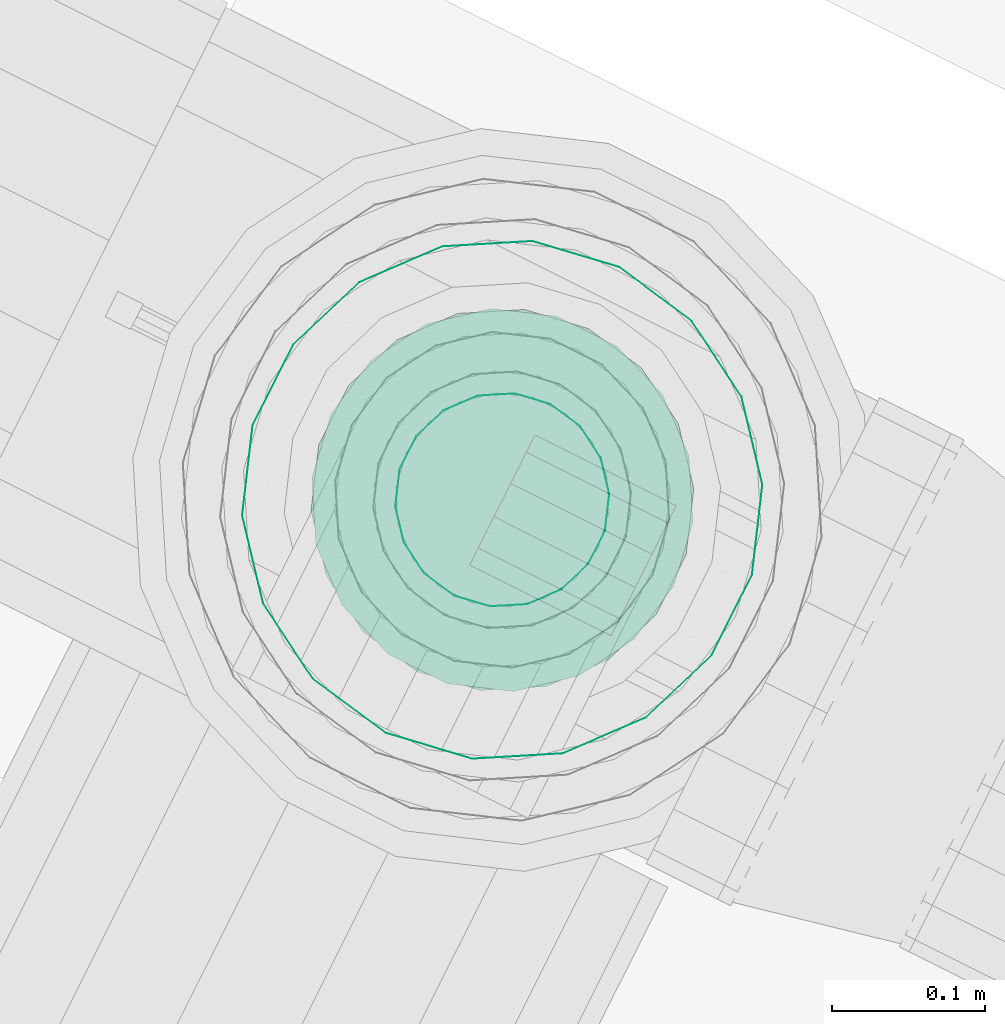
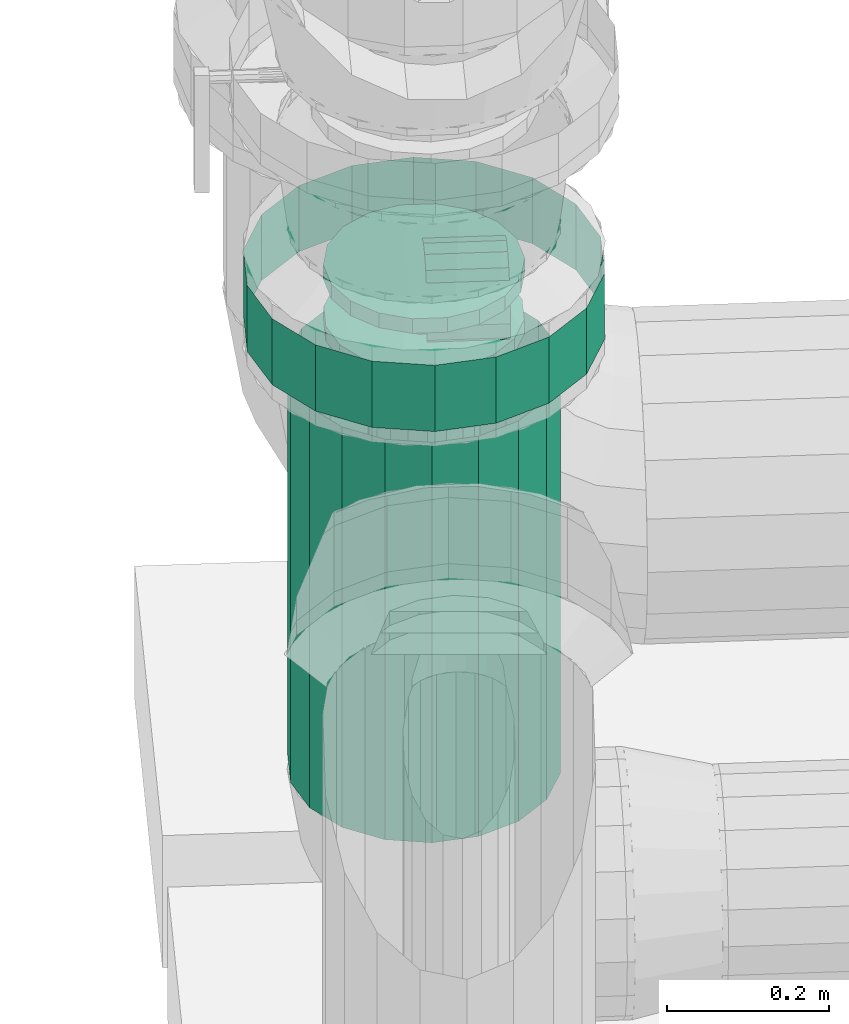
# One storey, part 116 of 152: 1 flow controller, 1 flow segment.
"""IFC2X3 building model written with IfcOpenShell, lengths in metres."""

from ifc_helpers import new_model, si_unit, derived_unit, direction, frame, origin, place, context, subcontext, project, spatial, face_set, surface_model, source, transform, mapped, material, type_object, type_shapes, element, save


model = new_model("IFC2X3")

# Units and contexts
model_context = context("Model", 3, precision=5.2338327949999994e-05, world=origin(), true_north=direction((0.0, 1.0)))
body_context = subcontext(model_context, "Body", "Model", "MODEL_VIEW")
ifc_project = project(units=[si_unit("LENGTHUNIT", "METRE"), si_unit("AREAUNIT", "SQUARE_METRE"), si_unit("VOLUMEUNIT", "CUBIC_METRE"), si_unit("MASSUNIT", "GRAM", prefix="KILO"), si_unit("PLANEANGLEUNIT", "RADIAN"), derived_unit("THERMALTRANSMITTANCEUNIT", [(si_unit("MASSUNIT", "GRAM", prefix="KILO"), 1), (si_unit("THERMODYNAMICTEMPERATUREUNIT", "KELVIN"), -1), (si_unit("TIMEUNIT", "SECOND"), -3)])], contexts=[model_context])

# Site, building, storey
site_placement = place(None, frame((0.0, 0.0, 0.0), z_axis=(0.0, 0.0, 1.0), x_axis=(0.8939966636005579, -0.4480736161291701, 0.0)))
site = spatial("IfcSite", under=ifc_project, at=site_placement, Name="Default", CompositionType="ELEMENT")
building_placement = place(site_placement, origin())
building = spatial("IfcBuilding", under=site, at=building_placement, CompositionType="ELEMENT")
storey_placement = place(building_placement, frame((0.0, 0.0, 2.7499999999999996)))
storey = spatial("IfcBuildingStorey", under=building, at=storey_placement, Name="1. Obergeschoss", CompositionType="ELEMENT", Elevation=2.7499999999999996)

# Flow controller
ifc_material = material(Name="IfcSurfaceStyle #9317")
distribution_element_type_1 = type_object("IfcDistributionElementType", Name="Rückschlagklappe:Rückschlagklappe", material=ifc_material)
shared_shape_1 = source(origin(), body_context, "Body", "SurfaceModel", [
    surface_model("IfcFaceBasedSurfaceModel", [(9.625770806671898, 7.4522083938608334, 4.175071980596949), (9.583018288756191, 7.444669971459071, 4.175071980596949), (9.583018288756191, 7.444669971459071, 4.1970719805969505), (9.625770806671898, 7.4522083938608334, 4.1970719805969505), (9.545422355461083, 7.422963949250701, 4.175071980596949), (9.545422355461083, 7.422963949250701, 4.1970719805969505), (9.517517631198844, 7.389708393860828, 4.175071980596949), (9.517517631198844, 7.389708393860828, 4.1970719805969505), (9.502669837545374, 7.348914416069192, 4.175071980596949), (9.502669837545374, 7.348914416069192, 4.1970719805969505), (9.502669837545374, 7.30550237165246, 4.175071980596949), (9.502669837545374, 7.30550237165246, 4.1970719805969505), (9.517517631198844, 7.264708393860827, 4.175071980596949), (9.517517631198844, 7.264708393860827, 4.1970719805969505), (9.545422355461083, 7.231452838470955, 4.175071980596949), (9.545422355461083, 7.231452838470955, 4.1970719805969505), (9.583018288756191, 7.209746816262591, 4.175071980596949), (9.583018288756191, 7.209746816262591, 4.1970719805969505), (9.6257708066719, 7.202208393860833, 4.175071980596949), (9.6257708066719, 7.202208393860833, 4.1970719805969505), (9.668523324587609, 7.209746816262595, 4.175071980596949), (9.668523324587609, 7.209746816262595, 4.1970719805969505), (9.706119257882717, 7.231452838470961, 4.175071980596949), (9.706119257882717, 7.231452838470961, 4.1970719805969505), (9.734023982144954, 7.264708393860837, 4.175071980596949), (9.734023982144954, 7.264708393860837, 4.1970719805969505), (9.748871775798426, 7.30550237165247, 4.175071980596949), (9.748871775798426, 7.30550237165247, 4.1970719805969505), (9.748871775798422, 7.348914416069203, 4.175071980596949), (9.748871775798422, 7.348914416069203, 4.1970719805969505), (9.734023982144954, 7.389708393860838, 4.175071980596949), (9.734023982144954, 7.389708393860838, 4.1970719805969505), (9.706119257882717, 7.422963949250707, 4.175071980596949), (9.706119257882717, 7.422963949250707, 4.1970719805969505), (9.66852332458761, 7.444669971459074, 4.175071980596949), (9.66852332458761, 7.444669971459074, 4.1970719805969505), (9.625770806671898, 7.327208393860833, 4.175071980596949), (9.625770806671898, 7.327208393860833, 4.19707198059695), (9.579204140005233, 7.32720839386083, 4.197071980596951), (9.582012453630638, 7.311281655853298, 4.197071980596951), (9.560133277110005, 7.303318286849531, 4.215738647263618), (9.5559208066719, 7.327208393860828, 4.215738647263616), (9.590098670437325, 7.297275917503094, 4.19707198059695), (9.572262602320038, 7.282309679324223, 4.215738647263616), (9.602487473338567, 7.2868804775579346, 4.1970719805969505), (9.5908458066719, 7.2667165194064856, 4.215738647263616), (9.61768458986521, 7.281349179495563, 4.1970719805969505), (9.613641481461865, 7.258419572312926, 4.215738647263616), (9.633857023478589, 7.281349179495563, 4.1970719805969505), (9.637900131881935, 7.258419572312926, 4.215738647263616), (9.649054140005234, 7.286880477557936, 4.19707198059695), (9.6606958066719, 7.266716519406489, 4.215738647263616), (9.661442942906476, 7.297275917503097, 4.19707198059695), (9.67927901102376, 7.282309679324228, 4.215738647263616), (9.669529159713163, 7.311281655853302, 4.1970719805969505), (9.691408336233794, 7.303318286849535, 4.215738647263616), (9.672337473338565, 7.3272083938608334, 4.1970719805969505), (9.6956208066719, 7.3272083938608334, 4.215738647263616), (9.669529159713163, 7.3431351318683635, 4.1970719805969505), (9.691408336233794, 7.351098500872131, 4.215738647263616), (9.661442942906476, 7.35714087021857, 4.19707198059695), (9.67927901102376, 7.372107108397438, 4.215738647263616), (9.649054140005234, 7.367536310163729, 4.19707198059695), (9.660695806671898, 7.387700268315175, 4.215738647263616), (9.633857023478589, 7.3730676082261, 4.1970719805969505), (9.637900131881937, 7.395997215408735, 4.215738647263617), (9.617684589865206, 7.3730676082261, 4.19707198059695), (9.613641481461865, 7.395997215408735, 4.215738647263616), (9.602487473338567, 7.367536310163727, 4.19707198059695), (9.590845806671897, 7.387700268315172, 4.215738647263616), (9.590098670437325, 7.357140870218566, 4.1970719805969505), (9.572262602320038, 7.372107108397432, 4.215738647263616), (9.582012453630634, 7.34313513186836, 4.19707198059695), (9.560133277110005, 7.351098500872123, 4.215738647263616), (9.6257708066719, 7.397058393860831, 4.215738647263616), (9.601880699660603, 7.392845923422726, 4.215738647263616), (9.601880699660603, 7.392845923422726, 4.234405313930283), (9.6257708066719, 7.397058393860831, 4.234405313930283), (9.580872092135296, 7.380716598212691, 4.215738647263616), (9.580872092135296, 7.380716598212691, 4.234405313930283), (9.565278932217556, 7.362133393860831, 4.215738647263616), (9.565278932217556, 7.362133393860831, 4.234405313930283), (9.556981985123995, 7.339337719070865, 4.215738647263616), (9.556981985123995, 7.339337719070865, 4.234405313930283), (9.556981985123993, 7.3150790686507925, 4.215738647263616), (9.556981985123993, 7.3150790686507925, 4.234405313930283), (9.565278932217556, 7.29228339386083, 4.215738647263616), (9.565278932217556, 7.29228339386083, 4.234405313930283), (9.580872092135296, 7.273700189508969, 4.215738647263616), (9.580872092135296, 7.273700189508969, 4.234405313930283), (9.601880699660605, 7.261570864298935, 4.215738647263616), (9.601880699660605, 7.261570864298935, 4.234405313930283), (9.6257708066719, 7.257358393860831, 4.215738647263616), (9.6257708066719, 7.257358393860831, 4.234405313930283), (9.6496609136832, 7.261570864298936, 4.215738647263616), (9.6496609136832, 7.261570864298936, 4.234405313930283), (9.670669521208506, 7.273700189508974, 4.215738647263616), (9.670669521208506, 7.273700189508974, 4.234405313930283), (9.68626268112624, 7.292283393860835, 4.215738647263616), (9.68626268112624, 7.292283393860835, 4.234405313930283), (9.694559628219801, 7.3150790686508, 4.215738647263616), (9.694559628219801, 7.3150790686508, 4.234405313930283), (9.694559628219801, 7.33933771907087, 4.215738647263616), (9.694559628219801, 7.33933771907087, 4.234405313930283), (9.686262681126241, 7.3621333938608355, 4.215738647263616), (9.686262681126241, 7.3621333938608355, 4.234405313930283), (9.670669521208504, 7.380716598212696, 4.215738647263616), (9.670669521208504, 7.380716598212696, 4.234405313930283), (9.6496609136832, 7.39284592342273, 4.215738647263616), (9.6496609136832, 7.39284592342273, 4.234405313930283), (9.555920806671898, 7.327208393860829, 4.234405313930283), (9.560133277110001, 7.303318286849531, 4.234405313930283), (9.582012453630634, 7.311281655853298, 4.253071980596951), (9.579204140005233, 7.32720839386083, 4.253071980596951), (9.572262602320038, 7.282309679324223, 4.234405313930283), (9.590098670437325, 7.297275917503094, 4.253071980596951), (9.5908458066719, 7.266716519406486, 4.234405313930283), (9.602487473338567, 7.2868804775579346, 4.253071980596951), (9.613641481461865, 7.2584195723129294, 4.234405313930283), (9.61768458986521, 7.281349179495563, 4.2530719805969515), (9.637900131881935, 7.2584195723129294, 4.234405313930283), (9.633857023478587, 7.281349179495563, 4.2530719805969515), (9.6606958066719, 7.26671651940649, 4.234405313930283), (9.649054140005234, 7.286880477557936, 4.253071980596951), (9.67927901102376, 7.282309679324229, 4.234405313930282), (9.661442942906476, 7.297275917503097, 4.25307198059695), (9.691408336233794, 7.303318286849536, 4.234405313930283), (9.669529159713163, 7.311281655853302, 4.253071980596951), (9.695620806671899, 7.327208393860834, 4.234405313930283), (9.672337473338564, 7.3272083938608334, 4.2530719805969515), (9.691408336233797, 7.351098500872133, 4.234405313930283), (9.669529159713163, 7.3431351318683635, 4.253071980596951), (9.67927901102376, 7.372107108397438, 4.234405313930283), (9.661442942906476, 7.357140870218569, 4.253071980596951), (9.660695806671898, 7.387700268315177, 4.234405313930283), (9.649054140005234, 7.367536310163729, 4.253071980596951), (9.637900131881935, 7.395997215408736, 4.234405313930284), (9.633857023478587, 7.3730676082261, 4.2530719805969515), (9.613641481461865, 7.395997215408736, 4.234405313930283), (9.617684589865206, 7.373067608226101, 4.2530719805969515), (9.590845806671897, 7.3877002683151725, 4.234405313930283), (9.602487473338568, 7.367536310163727, 4.253071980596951), (9.572262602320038, 7.372107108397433, 4.234405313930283), (9.590098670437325, 7.357140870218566, 4.253071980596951), (9.560133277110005, 7.351098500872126, 4.234405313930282), (9.582012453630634, 7.343135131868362, 4.25307198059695), (9.6257708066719, 7.3970583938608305, 4.22507198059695), (9.6257708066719, 7.392845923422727, 4.248962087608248), (9.728770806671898, 7.392845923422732, 4.248962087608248), (9.728770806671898, 7.397058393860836, 4.22507198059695), (9.625770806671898, 7.380716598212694, 4.269970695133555), (9.728770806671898, 7.380716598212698, 4.269970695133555), (9.625770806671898, 7.362133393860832, 4.285563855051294), (9.728770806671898, 7.362133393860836, 4.285563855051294), (9.6257708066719, 7.339337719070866, 4.293860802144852), (9.728770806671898, 7.339337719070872, 4.293860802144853), (9.625770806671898, 7.315079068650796, 4.293860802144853), (9.728770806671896, 7.3150790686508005, 4.293860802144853), (9.6257708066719, 7.292283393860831, 4.285563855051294), (9.728770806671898, 7.292283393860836, 4.285563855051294), (9.625770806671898, 7.273700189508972, 4.269970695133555), (9.728770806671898, 7.2737001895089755, 4.269970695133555), (9.625770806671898, 7.261570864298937, 4.248962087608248), (9.728770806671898, 7.261570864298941, 4.2489620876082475), (9.6257708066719, 7.257358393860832, 4.22507198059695), (9.728770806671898, 7.257358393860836, 4.22507198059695), (9.625770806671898, 7.261570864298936, 4.201181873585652), (9.728770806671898, 7.261570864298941, 4.201181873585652), (9.625770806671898, 7.273700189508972, 4.180173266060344), (9.728770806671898, 7.273700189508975, 4.180173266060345), (9.6257708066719, 7.292283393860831, 4.164580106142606), (9.728770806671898, 7.292283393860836, 4.164580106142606), (9.625770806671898, 7.315079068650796, 4.156283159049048), (9.728770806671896, 7.3150790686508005, 4.156283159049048), (9.6257708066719, 7.339337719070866, 4.156283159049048), (9.728770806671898, 7.339337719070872, 4.156283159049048), (9.625770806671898, 7.362133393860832, 4.164580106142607), (9.728770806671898, 7.362133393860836, 4.164580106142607), (9.625770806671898, 7.380716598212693, 4.180173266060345), (9.728770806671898, 7.380716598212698, 4.180173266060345), (9.6257708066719, 7.392845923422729, 4.201181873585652), (9.728770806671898, 7.3928459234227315, 4.201181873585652), (9.728770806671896, 7.327208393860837, 4.22507198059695), (9.750770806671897, 7.327208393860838, 4.25307198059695), (9.743232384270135, 7.369960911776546, 4.25307198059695), (9.743232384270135, 7.369960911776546, 4.27507198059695), (9.750770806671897, 7.327208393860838, 4.27507198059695), (9.72152636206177, 7.407556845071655, 4.25307198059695), (9.72152636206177, 7.407556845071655, 4.27507198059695), (9.688270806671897, 7.435461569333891, 4.25307198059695), (9.688270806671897, 7.435461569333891, 4.27507198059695), (9.647476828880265, 7.450309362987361, 4.25307198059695), (9.647476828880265, 7.450309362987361, 4.27507198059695), (9.604064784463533, 7.450309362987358, 4.25307198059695), (9.604064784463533, 7.450309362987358, 4.27507198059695), (9.5632708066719, 7.435461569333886, 4.25307198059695), (9.5632708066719, 7.435461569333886, 4.27507198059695), (9.530015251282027, 7.407556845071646, 4.25307198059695), (9.530015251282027, 7.407556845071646, 4.27507198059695), (9.508309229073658, 7.369960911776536, 4.25307198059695), (9.508309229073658, 7.369960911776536, 4.27507198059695), (9.5007708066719, 7.327208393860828, 4.25307198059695), (9.5007708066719, 7.327208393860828, 4.27507198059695), (9.508309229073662, 7.284455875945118, 4.25307198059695), (9.508309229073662, 7.284455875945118, 4.27507198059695), (9.530015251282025, 7.24685994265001, 4.25307198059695), (9.530015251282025, 7.24685994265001, 4.27507198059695), (9.5632708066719, 7.218955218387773, 4.25307198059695), (9.5632708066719, 7.218955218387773, 4.27507198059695), (9.604064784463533, 7.204107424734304, 4.25307198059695), (9.604064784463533, 7.204107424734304, 4.27507198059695), (9.647476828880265, 7.204107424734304, 4.25307198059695), (9.647476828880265, 7.204107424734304, 4.27507198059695), (9.6882708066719, 7.218955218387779, 4.25307198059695), (9.6882708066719, 7.218955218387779, 4.27507198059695), (9.72152636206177, 7.246859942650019, 4.25307198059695), (9.72152636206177, 7.246859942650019, 4.27507198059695), (9.743232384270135, 7.2844558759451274, 4.25307198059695), (9.743232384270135, 7.2844558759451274, 4.27507198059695), (9.625770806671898, 7.327208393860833, 4.25307198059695), (9.625770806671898, 7.327208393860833, 4.275071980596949), (9.625770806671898, 7.552208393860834, 4.175071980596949), (9.548816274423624, 7.538639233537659, 4.175071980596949), (9.548816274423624, 7.538639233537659, 4.27507198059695), (9.625770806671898, 7.552208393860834, 4.27507198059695), (9.481143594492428, 7.499568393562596, 4.175071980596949), (9.481143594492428, 7.499568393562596, 4.27507198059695), (9.430915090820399, 7.439708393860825, 4.175071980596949), (9.430915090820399, 7.439708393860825, 4.27507198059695), (9.404189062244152, 7.366279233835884, 4.175071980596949), (9.404189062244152, 7.366279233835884, 4.27507198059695), (9.404189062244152, 7.288137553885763, 4.175071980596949), (9.404189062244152, 7.288137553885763, 4.27507198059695), (9.430915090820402, 7.214708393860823, 4.175071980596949), (9.430915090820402, 7.214708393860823, 4.27507198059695), (9.481143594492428, 7.154848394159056, 4.175071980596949), (9.481143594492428, 7.154848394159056, 4.27507198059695), (9.548816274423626, 7.115777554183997, 4.175071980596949), (9.548816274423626, 7.115777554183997, 4.27507198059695), (9.6257708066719, 7.10220839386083, 4.175071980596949), (9.6257708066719, 7.10220839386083, 4.27507198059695), (9.702725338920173, 7.115777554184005, 4.175071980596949), (9.702725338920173, 7.115777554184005, 4.27507198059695), (9.770398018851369, 7.154848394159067, 4.175071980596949), (9.770398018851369, 7.154848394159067, 4.27507198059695), (9.820626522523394, 7.214708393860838, 4.175071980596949), (9.820626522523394, 7.214708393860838, 4.27507198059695), (9.847352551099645, 7.2881375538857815, 4.175071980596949), (9.847352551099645, 7.2881375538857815, 4.27507198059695), (9.847352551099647, 7.3662792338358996, 4.175071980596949), (9.847352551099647, 7.3662792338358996, 4.27507198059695), (9.820626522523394, 7.43970839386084, 4.175071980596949), (9.820626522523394, 7.43970839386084, 4.27507198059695), (9.77039801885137, 7.499568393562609, 4.175071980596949), (9.77039801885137, 7.499568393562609, 4.27507198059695), (9.702725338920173, 7.5386392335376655, 4.175071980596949), (9.702725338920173, 7.5386392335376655, 4.27507198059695)], [face_set([[[0, 1, 2, 3]], [[1, 4, 5, 2]], [[4, 6, 7, 5]], [[6, 8, 9, 7]], [[8, 10, 11, 9]], [[10, 12, 13, 11]], [[12, 14, 15, 13]], [[14, 16, 17, 15]], [[16, 18, 19, 17]], [[18, 20, 21, 19]], [[20, 22, 23, 21]], [[22, 24, 25, 23]], [[24, 26, 27, 25]], [[26, 28, 29, 27]], [[28, 30, 31, 29]], [[30, 32, 33, 31]], [[32, 34, 35, 33]], [[34, 0, 3, 35]], [[36, 1, 0]], [[36, 4, 1]], [[36, 6, 4]], [[36, 8, 6]], [[36, 10, 8]], [[36, 12, 10]], [[36, 14, 12]], [[36, 16, 14]], [[36, 18, 16]], [[36, 20, 18]], [[36, 22, 20]], [[36, 24, 22]], [[36, 26, 24]], [[36, 28, 26]], [[36, 30, 28]], [[36, 32, 30]], [[36, 34, 32]], [[36, 0, 34]], [[37, 35, 3]], [[37, 33, 35]], [[37, 31, 33]], [[37, 29, 31]], [[37, 27, 29]], [[37, 25, 27]], [[37, 23, 25]], [[37, 21, 23]], [[37, 19, 21]], [[37, 17, 19]], [[37, 15, 17]], [[37, 13, 15]], [[37, 11, 13]], [[37, 9, 11]], [[37, 7, 9]], [[37, 5, 7]], [[37, 2, 5]], [[37, 3, 2]], [[38, 39, 40, 41]], [[39, 42, 43, 40]], [[42, 44, 45, 43]], [[44, 46, 47, 45]], [[46, 48, 49, 47]], [[48, 50, 51, 49]], [[50, 52, 53, 51]], [[52, 54, 55, 53]], [[54, 56, 57, 55]], [[56, 58, 59, 57]], [[58, 60, 61, 59]], [[60, 62, 63, 61]], [[62, 64, 65, 63]], [[64, 66, 67, 65]], [[66, 68, 69, 67]], [[68, 70, 71, 69]], [[70, 72, 73, 71]], [[72, 38, 41, 73]], [[74, 75, 76, 77]], [[75, 78, 79, 76]], [[78, 80, 81, 79]], [[80, 82, 83, 81]], [[82, 84, 85, 83]], [[84, 86, 87, 85]], [[86, 88, 89, 87]], [[88, 90, 91, 89]], [[90, 92, 93, 91]], [[92, 94, 95, 93]], [[94, 96, 97, 95]], [[96, 98, 99, 97]], [[98, 100, 101, 99]], [[100, 102, 103, 101]], [[102, 104, 105, 103]], [[104, 106, 107, 105]], [[106, 108, 109, 107]], [[108, 74, 77, 109]], [[110, 111, 112, 113]], [[111, 114, 115, 112]], [[114, 116, 117, 115]], [[116, 118, 119, 117]], [[118, 120, 121, 119]], [[120, 122, 123, 121]], [[122, 124, 125, 123]], [[124, 126, 127, 125]], [[126, 128, 129, 127]], [[128, 130, 131, 129]], [[130, 132, 133, 131]], [[132, 134, 135, 133]], [[134, 136, 137, 135]], [[136, 138, 139, 137]], [[138, 140, 141, 139]], [[140, 142, 143, 141]], [[142, 144, 145, 143]], [[144, 110, 113, 145]], [[146, 147, 148, 149]], [[147, 150, 151, 148]], [[150, 152, 153, 151]], [[152, 154, 155, 153]], [[154, 156, 157, 155]], [[156, 158, 159, 157]], [[158, 160, 161, 159]], [[160, 162, 163, 161]], [[162, 164, 165, 163]], [[164, 166, 167, 165]], [[166, 168, 169, 167]], [[168, 170, 171, 169]], [[170, 172, 173, 171]], [[172, 174, 175, 173]], [[174, 176, 177, 175]], [[176, 178, 179, 177]], [[178, 180, 181, 179]], [[180, 146, 149, 181]], [[182, 181, 149]], [[182, 179, 181]], [[182, 177, 179]], [[182, 175, 177]], [[182, 173, 175]], [[182, 171, 173]], [[182, 169, 171]], [[182, 167, 169]], [[182, 165, 167]], [[182, 163, 165]], [[182, 161, 163]], [[182, 159, 161]], [[182, 157, 159]], [[182, 155, 157]], [[182, 153, 155]], [[182, 151, 153]], [[182, 148, 151]], [[182, 149, 148]], [[183, 184, 185, 186]], [[184, 187, 188, 185]], [[187, 189, 190, 188]], [[189, 191, 192, 190]], [[191, 193, 194, 192]], [[193, 195, 196, 194]], [[195, 197, 198, 196]], [[197, 199, 200, 198]], [[199, 201, 202, 200]], [[201, 203, 204, 202]], [[203, 205, 206, 204]], [[205, 207, 208, 206]], [[207, 209, 210, 208]], [[209, 211, 212, 210]], [[211, 213, 214, 212]], [[213, 215, 216, 214]], [[215, 217, 218, 216]], [[217, 183, 186, 218]], [[219, 184, 183]], [[219, 187, 184]], [[219, 189, 187]], [[219, 191, 189]], [[219, 193, 191]], [[219, 195, 193]], [[219, 197, 195]], [[219, 199, 197]], [[219, 201, 199]], [[219, 203, 201]], [[219, 205, 203]], [[219, 207, 205]], [[219, 209, 207]], [[219, 211, 209]], [[219, 213, 211]], [[219, 215, 213]], [[219, 217, 215]], [[219, 183, 217]], [[220, 218, 186]], [[220, 216, 218]], [[220, 214, 216]], [[220, 212, 214]], [[220, 210, 212]], [[220, 208, 210]], [[220, 206, 208]], [[220, 204, 206]], [[220, 202, 204]], [[220, 200, 202]], [[220, 198, 200]], [[220, 196, 198]], [[220, 194, 196]], [[220, 192, 194]], [[220, 190, 192]], [[220, 188, 190]], [[220, 185, 188]], [[220, 186, 185]], [[221, 222, 223, 224]], [[222, 225, 226, 223]], [[225, 227, 228, 226]], [[227, 229, 230, 228]], [[229, 231, 232, 230]], [[231, 233, 234, 232]], [[233, 235, 236, 234]], [[235, 237, 238, 236]], [[237, 239, 240, 238]], [[239, 241, 242, 240]], [[241, 243, 244, 242]], [[243, 245, 246, 244]], [[245, 247, 248, 246]], [[247, 249, 250, 248]], [[249, 251, 252, 250]], [[251, 253, 254, 252]], [[253, 255, 256, 254]], [[255, 221, 224, 256]]])]),
])
type_shapes(distribution_element_type_1, [shared_shape_1])
flow_controller_placement = place(storey_placement, frame((0.0, 0.0, -2.7499999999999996)))
element("IfcFlowController", 1, at=flow_controller_placement, inside=storey, type_object=distribution_element_type_1, material=ifc_material, Name="Rückschlagklappe", ObjectType="Rückschlagklappe", context=body_context, shape_type="MappedRepresentation", body=[
    mapped(shared_shape_1, transform((0.0, 0.0, 0.0), scale=1.0)),
])

# Flow segment
distribution_element_type_2 = type_object("IfcDistributionElementType", Name="Stahlrohr nach DIN 2448 233182:Stahlrohr nach DIN 2448 233182", material=ifc_material)
shared_shape_2 = source(origin(), body_context, "Body", "SurfaceModel", [
    surface_model("IfcFaceBasedSurfaceModel", [(9.625770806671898, 7.397058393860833, 3.5151547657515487), (9.601880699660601, 7.392845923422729, 3.5151547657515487), (9.601880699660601, 7.392845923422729, 4.120071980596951), (9.625770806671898, 7.397058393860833, 4.120071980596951), (9.580872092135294, 7.380716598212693, 3.5151547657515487), (9.580872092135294, 7.380716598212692, 4.120071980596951), (9.565278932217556, 7.362133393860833, 3.5151547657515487), (9.565278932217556, 7.362133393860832, 4.120071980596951), (9.556981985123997, 7.339337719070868, 3.5151547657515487), (9.556981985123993, 7.339337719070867, 4.120071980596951), (9.556981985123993, 7.315079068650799, 3.5151547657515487), (9.556981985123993, 7.315079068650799, 4.120071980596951), (9.565278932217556, 7.292283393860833, 3.5151547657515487), (9.565278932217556, 7.292283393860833, 4.120071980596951), (9.580872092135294, 7.273700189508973, 3.5151547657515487), (9.580872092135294, 7.273700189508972, 4.120071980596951), (9.601880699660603, 7.261570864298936, 3.5151547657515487), (9.601880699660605, 7.261570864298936, 4.120071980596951), (9.6257708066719, 7.257358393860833, 3.5151547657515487), (9.625770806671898, 7.257358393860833, 4.120071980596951), (9.649660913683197, 7.261570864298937, 3.5151547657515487), (9.6496609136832, 7.261570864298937, 4.120071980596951), (9.670669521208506, 7.273700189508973, 3.5151547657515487), (9.670669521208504, 7.273700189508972, 4.120071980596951), (9.68626268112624, 7.292283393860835, 3.5151547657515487), (9.686262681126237, 7.292283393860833, 4.120071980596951), (9.694559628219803, 7.315079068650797, 3.5151547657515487), (9.694559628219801, 7.315079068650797, 4.120071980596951), (9.694559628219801, 7.339337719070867, 3.5151547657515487), (9.6945596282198, 7.339337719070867, 4.120071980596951), (9.686262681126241, 7.362133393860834, 3.5151547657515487), (9.686262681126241, 7.362133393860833, 4.120071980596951), (9.670669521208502, 7.380716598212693, 3.5151547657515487), (9.670669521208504, 7.380716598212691, 4.120071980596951), (9.649660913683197, 7.392845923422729, 3.5151547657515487), (9.649660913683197, 7.392845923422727, 4.120071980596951), (9.625770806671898, 7.497058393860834, 3.5151547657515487), (9.56767868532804, 7.486815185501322, 3.5151547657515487), (9.567678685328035, 7.486815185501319, 4.120071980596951), (9.625770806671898, 7.497058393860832, 4.120071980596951), (9.516593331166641, 7.457321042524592, 3.5151547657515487), (9.516593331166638, 7.457321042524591, 4.120071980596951), (9.47867639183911, 7.412133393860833, 3.5151547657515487), (9.47867639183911, 7.412133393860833, 4.120071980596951), (9.458501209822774, 7.356702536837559, 3.5151547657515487), (9.458501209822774, 7.356702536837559, 4.120071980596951), (9.458501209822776, 7.297714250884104, 3.5151547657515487), (9.458501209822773, 7.297714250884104, 4.120071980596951), (9.47867639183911, 7.242283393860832, 3.5151547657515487), (9.47867639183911, 7.242283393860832, 4.120071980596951), (9.516593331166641, 7.197095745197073, 3.5151547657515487), (9.51659333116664, 7.197095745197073, 4.120071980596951), (9.567678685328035, 7.167601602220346, 3.5151547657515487), (9.567678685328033, 7.167601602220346, 4.120071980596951), (9.6257708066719, 7.157358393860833, 3.5151547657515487), (9.625770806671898, 7.157358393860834, 4.120071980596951), (9.683862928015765, 7.167601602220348, 3.5151547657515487), (9.683862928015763, 7.167601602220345, 4.120071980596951), (9.73494828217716, 7.197095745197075, 3.5151547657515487), (9.73494828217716, 7.197095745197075, 4.120071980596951), (9.772865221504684, 7.242283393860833, 3.5151547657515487), (9.772865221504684, 7.242283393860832, 4.120071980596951), (9.793040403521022, 7.297714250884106, 3.5151547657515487), (9.79304040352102, 7.297714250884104, 4.120071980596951), (9.79304040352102, 7.356702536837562, 3.5151547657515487), (9.793040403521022, 7.35670253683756, 4.120071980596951), (9.772865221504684, 7.412133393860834, 3.5151547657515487), (9.772865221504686, 7.412133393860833, 4.120071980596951), (9.734948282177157, 7.457321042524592, 3.5151547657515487), (9.734948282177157, 7.45732104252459, 4.120071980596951), (9.683862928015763, 7.48681518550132, 3.5151547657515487), (9.683862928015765, 7.486815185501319, 4.120071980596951)], [face_set([[[0, 1, 2, 3]], [[1, 4, 5, 2]], [[4, 6, 7, 5]], [[6, 8, 9, 7]], [[8, 10, 11, 9]], [[10, 12, 13, 11]], [[12, 14, 15, 13]], [[14, 16, 17, 15]], [[16, 18, 19, 17]], [[18, 20, 21, 19]], [[20, 22, 23, 21]], [[22, 24, 25, 23]], [[24, 26, 27, 25]], [[26, 28, 29, 27]], [[28, 30, 31, 29]], [[30, 32, 33, 31]], [[32, 34, 35, 33]], [[34, 0, 3, 35]], [[36, 37, 38, 39]], [[37, 40, 41, 38]], [[40, 42, 43, 41]], [[42, 44, 45, 43]], [[44, 46, 47, 45]], [[46, 48, 49, 47]], [[48, 50, 51, 49]], [[50, 52, 53, 51]], [[52, 54, 55, 53]], [[54, 56, 57, 55]], [[56, 58, 59, 57]], [[58, 60, 61, 59]], [[60, 62, 63, 61]], [[62, 64, 65, 63]], [[64, 66, 67, 65]], [[66, 68, 69, 67]], [[68, 70, 71, 69]], [[70, 36, 39, 71]]])]),
])
type_shapes(distribution_element_type_2, [shared_shape_2])
flow_segment_placement = place(storey_placement, frame((0.0, 0.0, -2.7499999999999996)))
element("IfcFlowSegment", 2, at=flow_segment_placement, inside=storey, type_object=distribution_element_type_2, material=ifc_material, Name="Stahlrohr nach DIN 2448", ObjectType="Stahlrohr nach DIN 2448", context=body_context, shape_type="MappedRepresentation", body=[
    mapped(shared_shape_2, transform((0.0, 0.0, 0.0), scale=1.0)),
])

save(model, "model.ifc")
